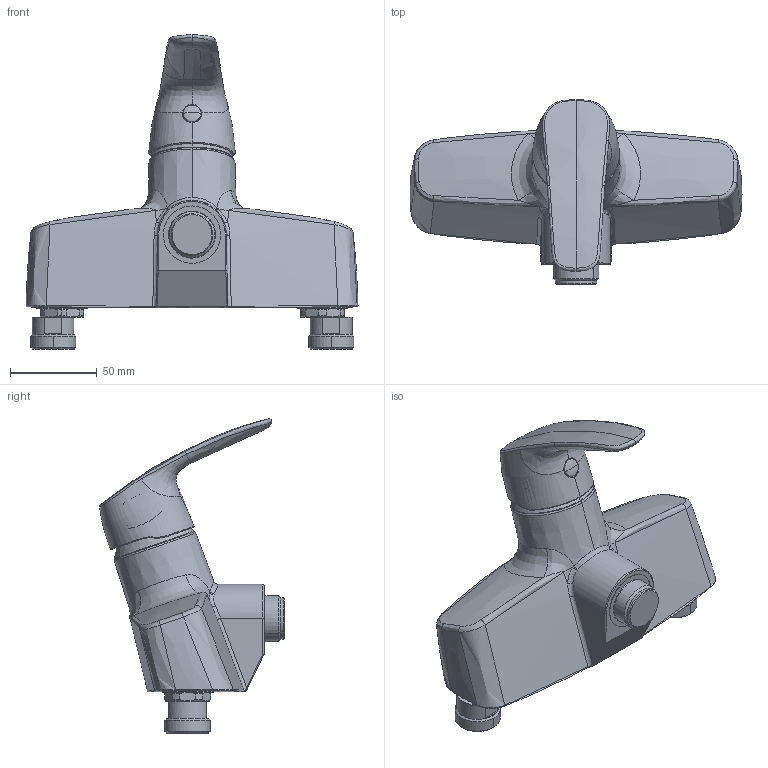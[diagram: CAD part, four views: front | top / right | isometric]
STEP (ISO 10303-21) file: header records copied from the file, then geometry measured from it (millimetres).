
FILE_DESCRIPTION (( 'STEP AP203' ), '1' );
FILE_NAME ('1085(2017).STEP', '2018-01-25T12:11:09', ( '' ), ( '' ), 'SwSTEP 2.0', 'SolidWorks 2016', '' );
FILE_SCHEMA (( 'CONFIG_CONTROL_DESIGN' ));
Length unit declared in the file: millimetre
Products named in the file (1): 1085(2017)
Bounding box: 191.05 x 106.26 x 180.89 mm (x, y, z)
Surface area: 78935.6 mm2 (no closed solid volume)
Topology: 0 solids, 8 shells, 716 faces, 1791 edges, 1089 vertices
Faces by surface type: bspline 333, cylinder 164, plane 140, cone 69, torus 10
Entity records: 45960 total; most frequent: CARTESIAN_POINT 32178, ORIENTED_EDGE 3562, DIRECTION 1818, EDGE_CURVE 1781, VERTEX_POINT 1089, B_SPLINE_CURVE_WITH_KNOTS 976, EDGE_LOOP 728, ADVANCED_FACE 716
